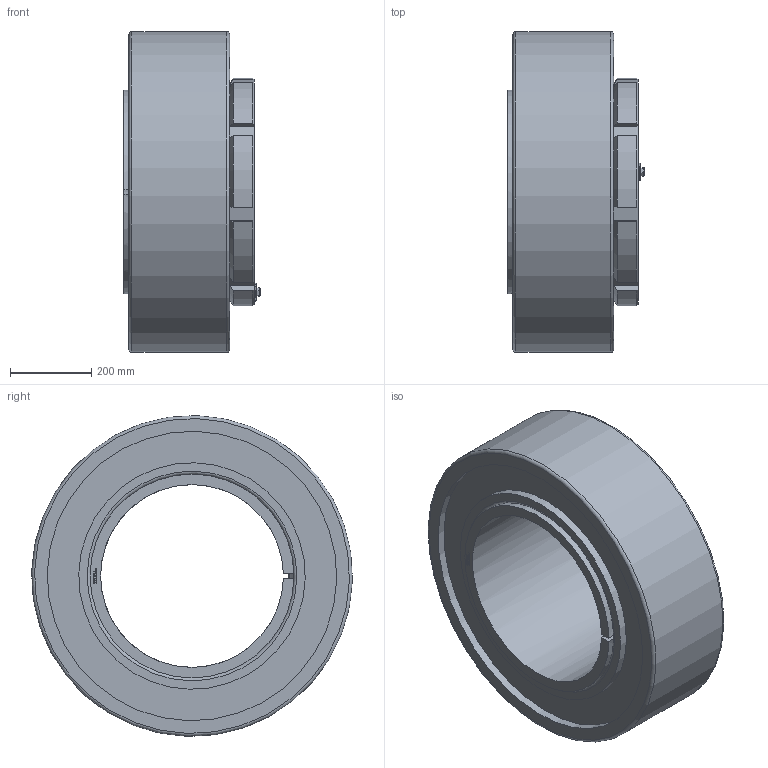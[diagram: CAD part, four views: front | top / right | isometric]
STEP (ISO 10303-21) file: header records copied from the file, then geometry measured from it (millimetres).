
FILE_DESCRIPTION( ( 'STEP AP203' ), ' ' );
FILE_NAME( 'p:/temp/worker_324/4592_4640/app_90_02016102820225318606671192d056f_000000_00_00_000000/format_0/BGL H 3196 TL+23196K.stp', '2016-10-28T18:22:55', ( '' ), ( '' ), ' ', 'PARTsolutions', ' ' );
FILE_SCHEMA( ( 'CONFIG_CONTROL_DESIGN' ) );
Length unit declared in the file: millimetre
Products named in the file (6): BGL H 3196 TL+23196K; _BGLH3196TLB; _BGL HM 3096; _BGLH3196TL+H-23196K; _BGL MS 3096-30/500part; _BGL MS 3096-30/500HHS
Assembly tree (5 placements, depth 2):
  BGL H 3196 TL+23196K
    _BGLH3196TLB
    _BGL HM 3096
    _BGLH3196TL+H-23196K
    _BGL MS 3096-30/500part
    _BGL MS 3096-30/500HHS
Bounding box: 334.78 x 789.73 x 789.73 mm (x, y, z)
Volume: 80876284.2 mm3; surface area: 3079725.7 mm2
Topology: 5 solids, 5 shells, 351 faces, 899 edges, 589 vertices
Faces by surface type: plane 230, cylinder 79, cone 38, torus 4
Full cylindrical faces by diameter (mm): 12 x9, 14 x1, 21.1 x1, 475 x1, 557.5 x2, 712.5 x2, 790 x1
Entity records: 10774 total; most frequent: CARTESIAN_POINT 2116, DIRECTION 1729, ORIENTED_EDGE 1726, EDGE_CURVE 863, VERTEX_POINT 586, AXIS2_PLACEMENT_3D 577, LINE 575, VECTOR 575
